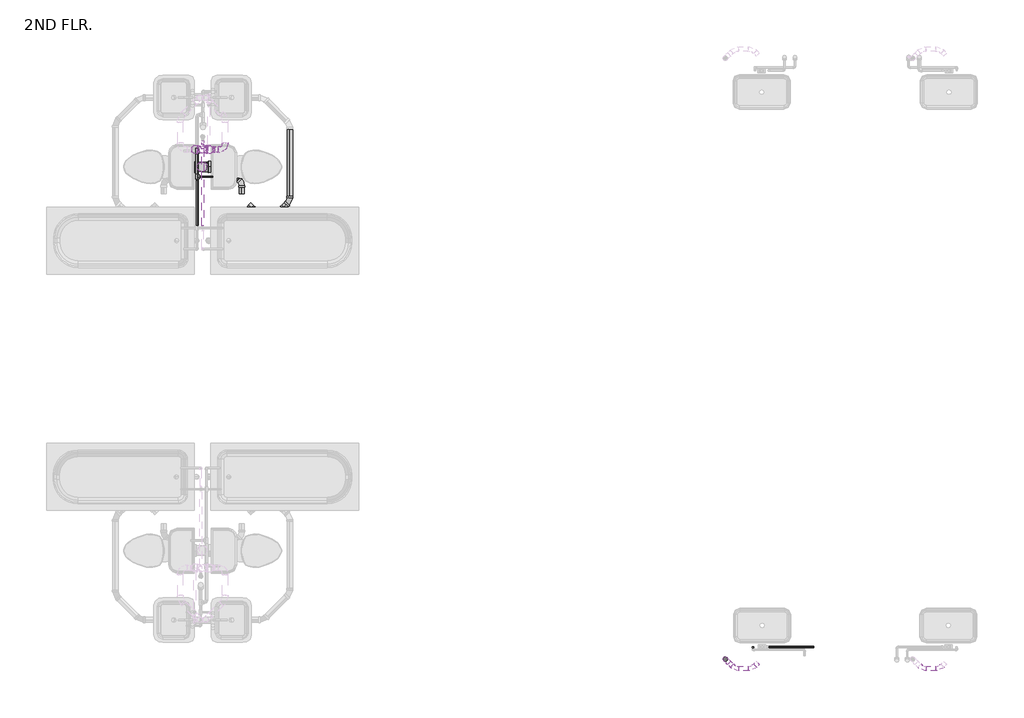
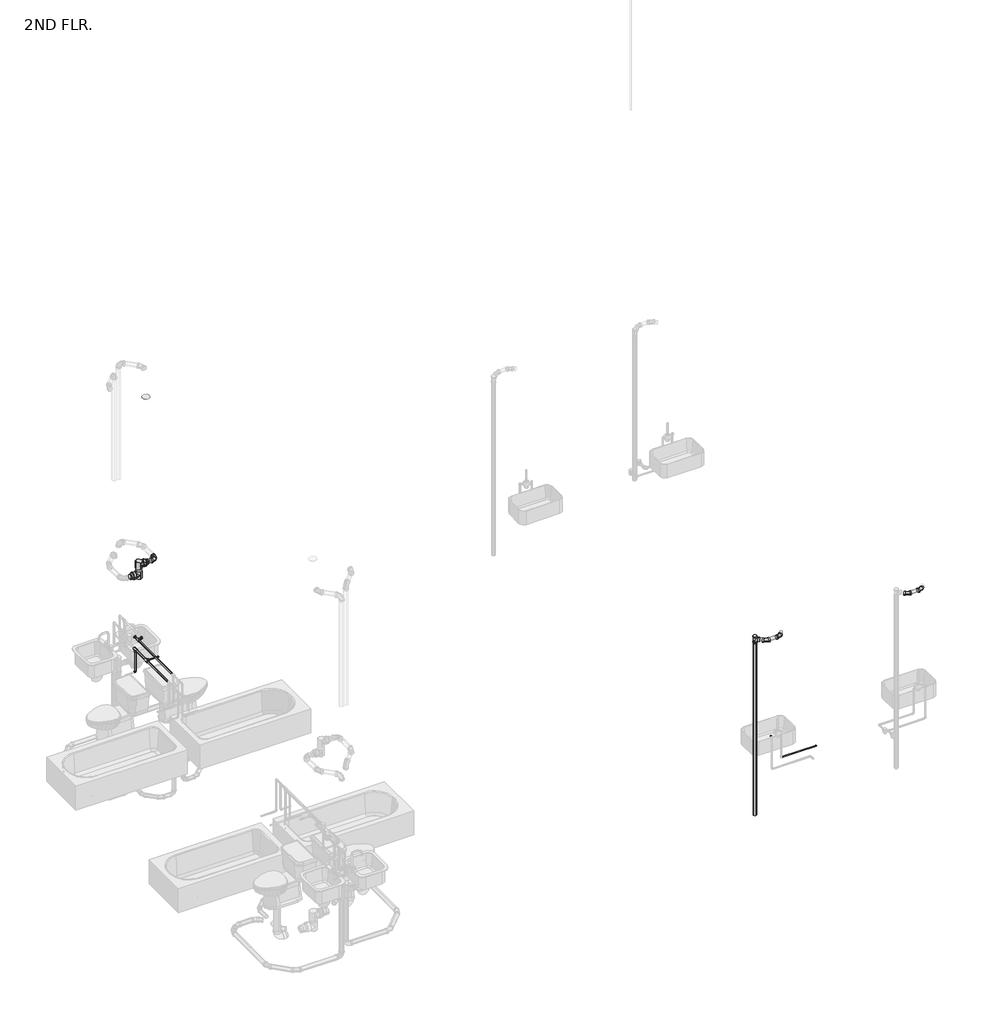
# One storey, part 6 of 15: 34 pipe fittings, 28 pipe segments.
"""IFC4 building model written with IfcOpenShell, lengths in millimetres."""

from ifc_helpers import new_model, si_unit, point, frame, frame_2d, origin, place, context, project, spatial, circle_curve, trimmed, segment, composite_curve, outline, extrude, transform, mapped, element, save
from components import bend_pvc_sch_40_dwv_standard_e59a9f3a, bend_pvc_sch_40_dwv_standard_c28c2be1, bend_pvc_sch_40_dwv_standard_9a61ab34, bend_pvc_sch_40_dwv_standard_f2f5988a, bend_pvc_sch_40_dwv_standard_1eaeee76, bend_pvc_sch_40_dwv_standard_dc84db8a, bend_pvc_sch_40_dwv_standard_64a347df, bend_pvc_sch_40_dwv_standard_72717ed5, bend_pvc_sch_40_dwv_standard_56c8873b, pipe_elbow_copper_k_feaaf02c, pipe_elbow_copper_k_aad62f2d, pipe_tee_copper_k_ee363fbf, pipe_tee_copper_k_feafe2f1, pipe_tee_copper_k_66279296, pipe_tee_standard_eb115f45, pipe_tee_standard_88342a58, pipe_transition_copper_k_b4f16853, pipe_transition_copper_k_b63fd5dd, pipe_transition_copper_k_92c68de2, reducer_pvc_sch_40_dwv_standard_f8e5081b, reducer_pvc_sch_40_dwv_standard_58c00515, tee_generic_standard_21caa2af, tee_sanitary_pvc_sch_40_dwv_standard_31acfb72

model = new_model("IFC4")

# Units and contexts
model_context = context("Model", 3, world=origin())
ifc_project = project(units=[si_unit("LENGTHUNIT", "METRE", prefix="MILLI")], contexts=[model_context])

# Site, building, storey
site = spatial("IfcSite", under=ifc_project)
building = spatial("IfcBuilding", under=site)
storey = spatial("IfcBuildingStorey", under=building, Name="2ND FLR.", Elevation=2844.8)

# Pipe fittings
placement = place(None, origin())
bend_pvc_sch_40_dwv_standard_shape = bend_pvc_sch_40_dwv_standard_e59a9f3a(model_context)
element("IfcPipeFitting", 1, ObjectType="Bend - PVC - Sch 40 - DWV : Standard", at=placement, inside=storey, context=model_context, shape_type="MappedRepresentation", body=[
    mapped(bend_pvc_sch_40_dwv_standard_shape, transform((2563.0324353, 7019.0003975, 2448.8949826), x_axis=(0.7071067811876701, 0.7071067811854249, 0.0), y_axis=(-0.7071067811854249, 0.7071067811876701, 0.0), z_axis=(0.0, 0.0, 1.0))),
])
bend_pvc_sch_40_dwv_standard_2_shape = bend_pvc_sch_40_dwv_standard_c28c2be1(model_context)
element("IfcPipeFitting", 2, ObjectType="Bend - PVC - Sch 40 - DWV : Standard", at=placement, inside=storey, context=model_context, shape_type="MappedRepresentation", body=[
    mapped(bend_pvc_sch_40_dwv_standard_2_shape, transform((8359.7743364, 1981.9339371, 5528.5490021), x_axis=(-0.7070684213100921, -0.7071067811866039, 0.007365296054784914), y_axis=(0.7070684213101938, -0.7071067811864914, -0.007365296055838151), z_axis=(0.010416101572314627, 0.0, 0.9999457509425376))),
])
element("IfcPipeFitting", 3, ObjectType="Bend - PVC - Sch 40 - DWV : Standard", at=placement, inside=storey, context=model_context, shape_type="MappedRepresentation", body=[
    mapped(bend_pvc_sch_40_dwv_standard_2_shape, transform((10488.1493364, 1981.9339371, 5528.5490021), x_axis=(-0.7070684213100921, -0.7071067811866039, 0.007365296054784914), y_axis=(0.7070684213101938, -0.7071067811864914, -0.007365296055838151), z_axis=(0.010416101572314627, 0.0, 0.9999457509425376))),
])
bend_pvc_sch_40_dwv_standard_3_shape = bend_pvc_sch_40_dwv_standard_9a61ab34(model_context)
element("IfcPipeFitting", 4, ObjectType="Bend - PVC - Sch 40 - DWV : Standard", at=placement, inside=storey, context=model_context, shape_type="MappedRepresentation", body=[
    mapped(bend_pvc_sch_40_dwv_standard_3_shape, transform((8161.8285818, 1981.9339371, 5530.610937), x_axis=(-0.9999457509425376, 0.0, 0.010416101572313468), y_axis=(-4.542044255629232e-05, -0.9999904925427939, -0.004360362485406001), z_axis=(0.010416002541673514, -0.004360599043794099, 0.9999362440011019))),
])
element("IfcPipeFitting", 5, ObjectType="Bend - PVC - Sch 40 - DWV : Standard", at=placement, inside=storey, context=model_context, shape_type="MappedRepresentation", body=[
    mapped(bend_pvc_sch_40_dwv_standard_3_shape, transform((10290.2035818, 1981.9339371, 5530.610937), x_axis=(-0.9999457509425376, 0.0, 0.010416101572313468), y_axis=(-4.542044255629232e-05, -0.9999904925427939, -0.004360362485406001), z_axis=(0.010416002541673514, -0.004360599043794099, 0.9999362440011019))),
])
bend_pvc_sch_40_dwv_standard_4_shape = bend_pvc_sch_40_dwv_standard_f2f5988a(model_context)
element("IfcPipeFitting", 6, ObjectType="Bend - PVC - Sch 40 - DWV : Standard", at=placement, inside=storey, context=model_context, shape_type="MappedRepresentation", body=[
    mapped(bend_pvc_sch_40_dwv_standard_4_shape, transform((3108.9116861, 7289.6197731, 2448.8689525), x_axis=(0.707106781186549, 0.707106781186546, 0.0), y_axis=(-0.707106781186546, 0.707106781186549, 0.0), z_axis=(0.0, 0.0, 1.0))),
])
element("IfcPipeFitting", 7, ObjectType="Bend - PVC - Sch 40 - DWV : Standard", at=placement, inside=storey, context=model_context, shape_type="MappedRepresentation", body=[
    mapped(bend_pvc_sch_40_dwv_standard_4_shape, transform((2999.0889044, 7179.7969914, 2448.8689525), x_axis=(1.0, 0.0, 0.0), y_axis=(0.0, 1.0, 0.0), z_axis=(0.0, 0.0, 1.0))),
])
bend_pvc_sch_40_dwv_standard_5_shape = bend_pvc_sch_40_dwv_standard_1eaeee76(model_context)
element("IfcPipeFitting", 8, ObjectType="Bend - PVC - Sch 40 - DWV : Standard", at=placement, inside=storey, context=model_context, shape_type="MappedRepresentation", body=[
    mapped(bend_pvc_sch_40_dwv_standard_5_shape, transform((2372.3084875, 7876.8887644, 5283.2), x_axis=(1.0, 0.0, 0.0), y_axis=(0.0, 0.9999999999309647, -1.1750347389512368e-05), z_axis=(0.0, 1.1750347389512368e-05, 0.9999999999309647))),
])
bend_pvc_sch_40_dwv_standard_6_shape = bend_pvc_sch_40_dwv_standard_dc84db8a(model_context)
element("IfcPipeFitting", 9, ObjectType="Bend - PVC - Sch 40 - DWV : Standard", at=placement, inside=storey, context=model_context, shape_type="MappedRepresentation", body=[
    mapped(bend_pvc_sch_40_dwv_standard_6_shape, transform((2670.7109214, 7679.2137881, 2447.8717279), x_axis=(0.9999739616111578, 0.0, -0.0072163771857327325), y_axis=(0.0072163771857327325, 0.0, 0.9999739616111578), z_axis=(0.0, -1.0, 0.0))),
])
bend_pvc_sch_40_dwv_standard_7_shape = bend_pvc_sch_40_dwv_standard_64a347df(model_context)
element("IfcPipeFitting", 10, ObjectType="Bend - PVC - Sch 40 - DWV : Standard", at=placement, inside=storey, context=model_context, shape_type="MappedRepresentation", body=[
    mapped(bend_pvc_sch_40_dwv_standard_7_shape, transform((2563.0324353, 7501.2987647, 2448.8949826), x_axis=(0.0, 1.0, 0.0), y_axis=(-0.9999186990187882, 0.0, 0.012751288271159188), z_axis=(0.012751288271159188, 0.0, 0.9999186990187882))),
])
bend_pvc_sch_40_dwv_standard_8_shape = bend_pvc_sch_40_dwv_standard_72717ed5(model_context)
element("IfcPipeFitting", 11, ObjectType="Bend - PVC - Sch 40 - DWV : Standard", at=placement, inside=storey, context=model_context, shape_type="MappedRepresentation", body=[
    mapped(bend_pvc_sch_40_dwv_standard_8_shape, transform((2713.5048204, 7179.7969914, 2448.8689525), x_axis=(0.7071067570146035, -0.7071067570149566, -0.0002614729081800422), y_axis=(0.7071068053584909, 0.7071067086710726, 0.0002614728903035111), z_axis=(0.0, -0.0003697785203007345, 0.9999999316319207))),
])
bend_pvc_sch_40_dwv_standard_9_shape = bend_pvc_sch_40_dwv_standard_56c8873b(model_context)
element("IfcPipeFitting", 12, ObjectType="Bend - PVC - Sch 40 - DWV : Standard", at=placement, inside=storey, context=model_context, shape_type="MappedRepresentation", body=[
    mapped(bend_pvc_sch_40_dwv_standard_9_shape, transform((2372.3084875, 7876.8887644, 5283.1990858), x_axis=(0.9999989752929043, 0.0, -0.0014315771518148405), y_axis=(-1.2572894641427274e-08, 0.9999999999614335, -8.782538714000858e-06), z_axis=(0.0014315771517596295, 8.782547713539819e-06, 0.9999989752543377))),
])
pipe_elbow_copper_k_shape = pipe_elbow_copper_k_feaaf02c(model_context)
element("IfcPipeFitting", 13, ObjectType="Pipe Elbow : Copper- K", at=placement, inside=storey, context=model_context, shape_type="MappedRepresentation", body=[
    mapped(pipe_elbow_copper_k_shape, transform((2186.5709875, 7910.5468309, 4064.0), x_axis=(1.0, 0.0, 0.0), y_axis=(0.0, 1.0, 0.0), z_axis=(0.0, 0.0, 1.0))),
])
pipe_elbow_copper_k_2_shape = pipe_elbow_copper_k_aad62f2d(model_context)
element("IfcPipeFitting", 14, ObjectType="Pipe Elbow : Copper- K", at=placement, inside=storey, context=model_context, shape_type="MappedRepresentation", body=[
    mapped(pipe_elbow_copper_k_2_shape, transform((2054.8084875, 7859.3528944, 3606.8), x_axis=(0.0, 0.0, -1.0), y_axis=(-1.0, 0.0, 0.0), z_axis=(0.0, 1.0, 0.0))),
])
pipe_tee_copper_k_shape = pipe_tee_copper_k_ee363fbf(model_context)
element("IfcPipeFitting", 15, ObjectType="Pipe Tee : Copper- K", at=placement, inside=storey, context=model_context, shape_type="MappedRepresentation", body=[
    mapped(pipe_tee_copper_k_shape, transform((2118.3084875, 7910.5468309, 4064.0), x_axis=(0.0, 1.0, 0.0), y_axis=(-1.0, 0.0, 0.0), z_axis=(0.0, 0.0, 1.0))),
])
pipe_tee_copper_k_2_shape = pipe_tee_copper_k_feafe2f1(model_context)
element("IfcPipeFitting", 16, ObjectType="Pipe Tee : Copper- K", at=placement, inside=storey, context=model_context, shape_type="MappedRepresentation", body=[
    mapped(pipe_tee_copper_k_2_shape, transform((2054.8084875, 7859.3528944, 3962.4), x_axis=(0.0, 1.0, 0.0), y_axis=(0.0, 0.0, 1.0), z_axis=(1.0, 0.0, 0.0))),
])
element("IfcPipeFitting", 17, ObjectType="Pipe Tee : Copper- K", at=placement, inside=storey, context=model_context, shape_type="MappedRepresentation", body=[
    mapped(pipe_tee_copper_k_2_shape, transform((2054.8084875, 7567.5498426, 3962.4), x_axis=(0.0, 1.0, 0.0), y_axis=(-1.0, 0.0, 0.0), z_axis=(0.0, 0.0, 1.0))),
])
pipe_tee_copper_k_3_shape = pipe_tee_copper_k_66279296(model_context)
element("IfcPipeFitting", 18, ObjectType="Pipe Tee : Copper- K", at=placement, inside=storey, context=model_context, shape_type="MappedRepresentation", body=[
    mapped(pipe_tee_copper_k_3_shape, transform((2111.7559337, 7876.8887644, 5130.8), x_axis=(0.0, 0.0, 1.0), y_axis=(1.0, 0.0, 0.0), z_axis=(0.0, 1.0, 0.0))),
])
element("IfcPipeFitting", 19, ObjectType="Pipe Tee : Standard", at=placement, inside=storey, context=model_context, shape_type="MappedRepresentation", body=[
    mapped(pipe_tee_copper_k_3_shape, transform((2111.7559337, 7876.8887644, 5283.2), x_axis=(0.0, 0.0, 1.0), y_axis=(-1.0, 0.0, 0.0), z_axis=(0.0, -1.0, 0.0))),
])
element("IfcPipeFitting", 20, ObjectType="Pipe Tee : Standard", at=placement, inside=storey, context=model_context, shape_type="MappedRepresentation", body=[
    mapped(pipe_tee_copper_k_3_shape, transform((2118.30848, 7876.8887644, 5130.7990858), x_axis=(0.0, 0.0, 1.0), y_axis=(1.0, 0.0, 0.0), z_axis=(0.0, 1.0, 0.0))),
])
pipe_tee_standard_shape = pipe_tee_standard_eb115f45(model_context)
element("IfcPipeFitting", 21, ObjectType="Pipe Tee : Standard", at=placement, inside=storey, context=model_context, shape_type="MappedRepresentation", body=[
    mapped(pipe_tee_standard_shape, transform((2118.30848, 7876.8887644, 5283.5627068), x_axis=(0.0, 0.0, 1.0), y_axis=(-1.0, 0.0, 0.0), z_axis=(0.0, -1.0, 0.0))),
])
pipe_tee_standard_2_shape = pipe_tee_standard_88342a58(model_context)
element("IfcPipeFitting", 22, ObjectType="Pipe Tee : Standard", at=placement, inside=storey, context=model_context, shape_type="MappedRepresentation", body=[
    mapped(pipe_tee_standard_2_shape, transform((2111.7564013, 7679.2137881, 2451.8581717), x_axis=(-6.991457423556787e-08, 0.0, 0.9999999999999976), y_axis=(-0.9999999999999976, 0.0, -6.991457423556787e-08), z_axis=(0.0, -1.0, 0.0))),
])
pipe_transition_copper_k_shape = pipe_transition_copper_k_b4f16853(model_context)
element("IfcPipeFitting", 23, ObjectType="Pipe Transition : Copper- K", at=placement, inside=storey, context=model_context, shape_type="MappedRepresentation", body=[
    mapped(pipe_transition_copper_k_shape, transform((2054.8084875, 7537.3873426, 3962.4), x_axis=(0.0, -1.0, 0.0), y_axis=(1.0, 0.0, 0.0), z_axis=(0.0, 0.0, 1.0))),
])
pipe_transition_copper_k_2_shape = pipe_transition_copper_k_b63fd5dd(model_context)
element("IfcPipeFitting", 24, ObjectType="Pipe Transition : Copper- K", at=placement, inside=storey, context=model_context, shape_type="MappedRepresentation", body=[
    mapped(pipe_transition_copper_k_2_shape, transform((2054.8084875, 7859.3528944, 3932.2375), x_axis=(0.0, 0.0, -1.0), y_axis=(0.0, -1.0, 0.0), z_axis=(-1.0, 0.0, 0.0))),
])
element("IfcPipeFitting", 25, ObjectType="Pipe Transition : Copper- K", at=placement, inside=storey, context=model_context, shape_type="MappedRepresentation", body=[
    mapped(pipe_transition_copper_k_2_shape, transform((2084.9709875, 7567.5498426, 3962.4), x_axis=(1.0, 0.0, 0.0), y_axis=(0.0, 1.0, 0.0), z_axis=(0.0, 0.0, 1.0))),
])
pipe_transition_copper_k_3_shape = pipe_transition_copper_k_92c68de2(model_context)
element("IfcPipeFitting", 26, ObjectType="Pipe Transition : Copper- K", at=placement, inside=storey, context=model_context, shape_type="MappedRepresentation", body=[
    mapped(pipe_transition_copper_k_3_shape, transform((2118.3084875, 7984.6481631, 4064.0), x_axis=(0.0, -1.0, 0.0), y_axis=(1.0, 0.0, 0.0), z_axis=(0.0, 0.0, 1.0))),
])
reducer_pvc_sch_40_dwv_standard_shape = reducer_pvc_sch_40_dwv_standard_f8e5081b(model_context)
element("IfcPipeFitting", 27, ObjectType="Reducer - PVC - Sch 40 - DWV : Standard", at=placement, inside=storey, context=model_context, shape_type="MappedRepresentation", body=[
    mapped(reducer_pvc_sch_40_dwv_standard_shape, transform((2167.3184337, 7876.8887644, 5283.2), x_axis=(1.0, 0.0, 0.0), y_axis=(0.0, 1.0, 0.0), z_axis=(0.0, 0.0, 1.0))),
])
element("IfcPipeFitting", 28, ObjectType="Reducer - PVC - Sch 40 - DWV : Standard", at=placement, inside=storey, context=model_context, shape_type="MappedRepresentation", body=[
    mapped(reducer_pvc_sch_40_dwv_standard_shape, transform((2056.1934337, 7876.8887644, 5130.8), x_axis=(-1.0, 0.0, 0.0), y_axis=(0.0, -1.0, 0.0), z_axis=(0.0, 0.0, 1.0))),
])
element("IfcPipeFitting", 29, ObjectType="Reducer - PVC - Sch 40 - DWV : Standard", at=placement, inside=storey, context=model_context, shape_type="MappedRepresentation", body=[
    mapped(reducer_pvc_sch_40_dwv_standard_shape, transform((2062.74598, 7876.8887644, 5130.7990858), x_axis=(-1.0, 0.0, 0.0), y_axis=(0.0, -1.0, 0.0), z_axis=(0.0, 0.0, 1.0))),
])
element("IfcPipeFitting", 30, ObjectType="Reducer - PVC - Sch 40 - DWV : Standard", at=placement, inside=storey, context=model_context, shape_type="MappedRepresentation", body=[
    mapped(reducer_pvc_sch_40_dwv_standard_shape, transform((2173.8709231, 7876.8887644, 5283.4831648), x_axis=(0.9999989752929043, 0.0, -0.001431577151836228), y_axis=(0.0, 1.0000000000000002, 0.0), z_axis=(0.001431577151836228, 0.0, 0.9999989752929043))),
])
reducer_pvc_sch_40_dwv_standard_2_shape = reducer_pvc_sch_40_dwv_standard_58c00515(model_context)
element("IfcPipeFitting", 31, ObjectType="Reducer - PVC - Sch 40 - DWV : Standard", at=placement, inside=storey, context=model_context, shape_type="MappedRepresentation", body=[
    mapped(reducer_pvc_sch_40_dwv_standard_2_shape, transform((2046.6706071, 7679.2137881, 2293.686673), x_axis=(-0.9999739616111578, 0.0, -0.007216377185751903), y_axis=(-0.007216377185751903, 0.0, 0.9999739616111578), z_axis=(0.0, 1.0, 0.0))),
])
element("IfcPipeFitting", 32, ObjectType="Reducer - PVC - Sch 40 - DWV : Standard", at=placement, inside=storey, context=model_context, shape_type="MappedRepresentation", body=[
    mapped(reducer_pvc_sch_40_dwv_standard_2_shape, transform((2180.0171238, 7679.2137881, 2451.3655638), x_axis=(0.9999739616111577, 0.0, -0.007216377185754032), y_axis=(0.007216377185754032, 0.0, 0.9999739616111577), z_axis=(0.0, -1.0, 0.0))),
])
tee_generic_standard_shape = tee_generic_standard_21caa2af(model_context)
element("IfcPipeFitting", 33, ObjectType="Tee - Generic : Standard", at=placement, inside=storey, context=model_context, shape_type="MappedRepresentation", body=[
    mapped(tee_generic_standard_shape, transform((2111.7564123, 7679.2137881, 2294.1563689), x_axis=(-6.991457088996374e-08, 0.0, 0.9999999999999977), y_axis=(0.9999999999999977, 0.0, 6.991457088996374e-08), z_axis=(0.0, 1.0, 0.0))),
])
tee_sanitary_pvc_sch_40_dwv_standard_shape = tee_sanitary_pvc_sch_40_dwv_standard_31acfb72(model_context)
element("IfcPipeFitting", 34, ObjectType="Tee Sanitary - PVC - Sch 40 - DWV : Standard", at=placement, inside=storey, context=model_context, shape_type="MappedRepresentation", body=[
    mapped(tee_sanitary_pvc_sch_40_dwv_standard_shape, transform((8054.0611988, 2088.8641446, 5532.1998234), x_axis=(0.0, 0.0, 1.0), y_axis=(0.7098586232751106, -0.7043441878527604, 0.0), z_axis=(0.7043441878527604, 0.7098586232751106, 0.0))),
])

# Pipe segments
element("IfcPipeSegment", 35, ObjectType="Copper", at=placement, inside=storey, context=model_context, shape_type="SweptSolid", body=[
    extrude(outline(composite_curve([segment(trimmed(circle_curve(frame_2d((7910.5468309, 4064.0)), 11.1125), [point((7899.4343309, 4064.0))], [point((7910.5468309, 4075.1125))], False, "CARTESIAN"), True, "CONTINUOUS"), segment(trimmed(circle_curve(frame_2d((7910.5468309, 4064.0)), 11.1125), [point((7910.5468309, 4075.1125))], [point((7921.6593309, 4064.0))], False, "CARTESIAN"), True, "CONTINUOUS"), segment(trimmed(circle_curve(frame_2d((7910.5468309, 4064.0)), 11.1125), [point((7921.6593309, 4064.0))], [point((7910.5468309, 4052.8875))], False, "CARTESIAN"), True, "CONTINUOUS"), segment(trimmed(circle_curve(frame_2d((7910.5468309, 4064.0)), 11.1125), [point((7910.5468309, 4052.8875))], [point((7899.4343309, 4064.0))], False, "CARTESIAN"), True, "CONTINUOUS")], self_intersect=False)), frame((2145.2959875, 0.0, 0.0), z_axis=(1.0, 0.0, 0.0), x_axis=(0.0, 1.0, 0.0)), (0.0, 0.0, 1.0), 20.6375),
])
element("IfcPipeSegment", 36, ObjectType="Copper", at=placement, inside=storey, context=model_context, shape_type="SweptSolid", body=[
    extrude(outline(composite_curve([segment(trimmed(circle_curve(frame_2d((4064.0, 2118.3084875)), 11.1125), [point((4064.0, 2107.1959875))], [point((4052.8875, 2118.3084875))], False, "CARTESIAN"), True, "CONTINUOUS"), segment(trimmed(circle_curve(frame_2d((4064.0, 2118.3084875)), 11.1125), [point((4052.8875, 2118.3084875))], [point((4064.0, 2129.4209875))], False, "CARTESIAN"), True, "CONTINUOUS"), segment(trimmed(circle_curve(frame_2d((4064.0, 2118.3084875)), 11.1125), [point((4064.0, 2129.4209875))], [point((4075.1125, 2118.3084875))], False, "CARTESIAN"), True, "CONTINUOUS"), segment(trimmed(circle_curve(frame_2d((4064.0, 2118.3084875)), 11.1125), [point((4075.1125, 2118.3084875))], [point((4064.0, 2107.1959875))], False, "CARTESIAN"), True, "CONTINUOUS")], self_intersect=False)), frame((0.0, 7937.5343309, 0.0), z_axis=(0.0, 1.0, 0.0), x_axis=(0.0, 0.0, 1.0)), (0.0, 0.0, 1.0), 36.7950822),
])
element("IfcPipeSegment", 37, ObjectType="Copper", at=placement, inside=storey, context=model_context, shape_type="SweptSolid", body=[
    extrude(outline(composite_curve([segment(trimmed(circle_curve(frame_2d((2054.8084875, 7859.3528944)), 7.9375), [point((2062.7459875, 7859.3528944))], [point((2054.8084875, 7851.4153944))], False, "CARTESIAN"), True, "CONTINUOUS"), segment(trimmed(circle_curve(frame_2d((2054.8084875, 7859.3528944)), 7.9375), [point((2054.8084875, 7851.4153944))], [point((2046.8709875, 7859.3528944))], False, "CARTESIAN"), True, "CONTINUOUS"), segment(trimmed(circle_curve(frame_2d((2054.8084875, 7859.3528944)), 7.9375), [point((2046.8709875, 7859.3528944))], [point((2054.8084875, 7867.2903944))], False, "CARTESIAN"), True, "CONTINUOUS"), segment(trimmed(circle_curve(frame_2d((2054.8084875, 7859.3528944)), 7.9375), [point((2054.8084875, 7867.2903944))], [point((2062.7459875, 7859.3528944))], False, "CARTESIAN"), True, "CONTINUOUS")], self_intersect=False)), frame((0.0, 0.0, 3624.2625), z_axis=(0.0, 0.0, 1.0), x_axis=(1.0, 0.0, 0.0)), (0.0, 0.0, 1.0), 300.83125),
])
element("IfcPipeSegment", 38, ObjectType="Copper", at=placement, inside=storey, context=model_context, shape_type="SweptSolid", body=[
    extrude(outline(composite_curve([segment(trimmed(circle_curve(frame_2d((7567.5498426, 3962.4)), 7.9375), [point((7559.6123426, 3962.4))], [point((7567.5498426, 3970.3375))], False, "CARTESIAN"), True, "CONTINUOUS"), segment(trimmed(circle_curve(frame_2d((7567.5498426, 3962.4)), 7.9375), [point((7567.5498426, 3970.3375))], [point((7575.4873426, 3962.4))], False, "CARTESIAN"), True, "CONTINUOUS"), segment(trimmed(circle_curve(frame_2d((7567.5498426, 3962.4)), 7.9375), [point((7575.4873426, 3962.4))], [point((7567.5498426, 3954.4625))], False, "CARTESIAN"), True, "CONTINUOUS"), segment(trimmed(circle_curve(frame_2d((7567.5498426, 3962.4)), 7.9375), [point((7567.5498426, 3954.4625))], [point((7559.6123426, 3962.4))], False, "CARTESIAN"), True, "CONTINUOUS")], self_intersect=False)), frame((2092.1147375, 0.0, 0.0), z_axis=(1.0, 0.0, 0.0), x_axis=(0.0, 1.0, 0.0)), (0.0, 0.0, 1.0), 140.49375),
])
element("IfcPipeSegment", 39, ObjectType="Copper", at=placement, inside=storey, context=model_context, shape_type="SweptSolid", body=[
    extrude(outline(composite_curve([segment(trimmed(circle_curve(frame_2d((3962.4, 2054.8084875)), 14.2875), [point((3962.4, 2040.5209875))], [point((3948.1125, 2054.8084875))], False, "CARTESIAN"), True, "CONTINUOUS"), segment(trimmed(circle_curve(frame_2d((3962.4, 2054.8084875)), 14.2875), [point((3948.1125, 2054.8084875))], [point((3962.4, 2069.0959875))], False, "CARTESIAN"), True, "CONTINUOUS"), segment(trimmed(circle_curve(frame_2d((3962.4, 2054.8084875)), 14.2875), [point((3962.4, 2069.0959875))], [point((3976.6875, 2054.8084875))], False, "CARTESIAN"), True, "CONTINUOUS"), segment(trimmed(circle_curve(frame_2d((3962.4, 2054.8084875)), 14.2875), [point((3976.6875, 2054.8084875))], [point((3962.4, 2040.5209875))], False, "CARTESIAN"), True, "CONTINUOUS")], self_intersect=False)), frame((0.0, 7597.7123426, 0.0), z_axis=(0.0, 1.0, 0.0), x_axis=(0.0, 0.0, 1.0)), (0.0, 0.0, 1.0), 231.4780518),
])
element("IfcPipeSegment", 40, ObjectType="Copper", at=placement, inside=storey, context=model_context, shape_type="SweptSolid", body=[
    extrude(outline(composite_curve([segment(trimmed(circle_curve(frame_2d((4064.0, 2118.3084875)), 11.1125), [point((4064.0, 2107.1959875))], [point((4052.8875, 2118.3084875))], False, "CARTESIAN"), True, "CONTINUOUS"), segment(trimmed(circle_curve(frame_2d((4064.0, 2118.3084875)), 11.1125), [point((4052.8875, 2118.3084875))], [point((4064.0, 2129.4209875))], False, "CARTESIAN"), True, "CONTINUOUS"), segment(trimmed(circle_curve(frame_2d((4064.0, 2118.3084875)), 11.1125), [point((4064.0, 2129.4209875))], [point((4075.1125, 2118.3084875))], False, "CARTESIAN"), True, "CONTINUOUS"), segment(trimmed(circle_curve(frame_2d((4064.0, 2118.3084875)), 11.1125), [point((4075.1125, 2118.3084875))], [point((4064.0, 2107.1959875))], False, "CARTESIAN"), True, "CONTINUOUS")], self_intersect=False)), frame((0.0, 7013.009719, 0.0), z_axis=(0.0, 1.0, 0.0), x_axis=(0.0, 0.0, 1.0)), (0.0, 0.0, 1.0), 870.5496119),
])
element("IfcPipeSegment", 41, ObjectType="Copper", at=placement, inside=storey, context=model_context, shape_type="SweptSolid", body=[
    extrude(outline(composite_curve([segment(trimmed(circle_curve(frame_2d((3962.4, 2054.8084875)), 11.1125), [point((3962.4, 2043.6959875))], [point((3951.2875, 2054.8084875))], False, "CARTESIAN"), True, "CONTINUOUS"), segment(trimmed(circle_curve(frame_2d((3962.4, 2054.8084875)), 11.1125), [point((3951.2875, 2054.8084875))], [point((3962.4, 2065.9209875))], False, "CARTESIAN"), True, "CONTINUOUS"), segment(trimmed(circle_curve(frame_2d((3962.4, 2054.8084875)), 11.1125), [point((3962.4, 2065.9209875))], [point((3973.5125, 2054.8084875))], False, "CARTESIAN"), True, "CONTINUOUS"), segment(trimmed(circle_curve(frame_2d((3962.4, 2054.8084875)), 11.1125), [point((3973.5125, 2054.8084875))], [point((3962.4, 2043.6959875))], False, "CARTESIAN"), True, "CONTINUOUS")], self_intersect=False)), frame((0.0, 7013.009719, 0.0), z_axis=(0.0, 1.0, 0.0), x_axis=(0.0, 0.0, 1.0)), (0.0, 0.0, 1.0), 517.2338736),
])
element("IfcPipeSegment", 42, ObjectType="Copper", at=placement, inside=storey, context=model_context, shape_type="SweptSolid", body=[
    extrude(outline(composite_curve([segment(trimmed(circle_curve(frame_2d((3789.6601562, 8370.2391516)), 7.9375), [point((3789.6601562, 8378.1766516))], [point((3797.5976562, 8370.2391516))], False, "CARTESIAN"), True, "CONTINUOUS"), segment(trimmed(circle_curve(frame_2d((3789.6601562, 8370.2391516)), 7.9375), [point((3797.5976562, 8370.2391516))], [point((3789.6601562, 8362.3016516))], False, "CARTESIAN"), True, "CONTINUOUS"), segment(trimmed(circle_curve(frame_2d((3789.6601562, 8370.2391516)), 7.9375), [point((3789.6601562, 8362.3016516))], [point((3781.7226562, 8370.2391516))], False, "CARTESIAN"), True, "CONTINUOUS"), segment(trimmed(circle_curve(frame_2d((3789.6601562, 8370.2391516)), 7.9375), [point((3781.7226562, 8370.2391516))], [point((3789.6601562, 8378.1766516))], False, "CARTESIAN"), True, "CONTINUOUS")], self_intersect=False)), frame((0.0, 2213.188365, 0.0), z_axis=(0.0, 1.0, 0.0), x_axis=(0.0, 0.0, 1.0)), (0.0, 0.0, 1.0), 17.3178158),
])
element("IfcPipeSegment", 43, ObjectType="Copper", at=placement, inside=storey, context=model_context, shape_type="SweptSolid", body=[
    extrude(outline(composite_curve([segment(trimmed(circle_curve(frame_2d((0.0, 7.9375)), 7.9375), [point((-7.9375, 7.9375))], [point((0.0, 15.875))], False, "CARTESIAN"), True, "CONTINUOUS"), segment(trimmed(circle_curve(frame_2d((0.0, 7.9375)), 7.9375), [point((0.0, 15.875))], [point((7.9375, 7.9375))], False, "CARTESIAN"), True, "CONTINUOUS"), segment(trimmed(circle_curve(frame_2d((0.0, 7.9375)), 7.9375), [point((7.9375, 7.9375))], [point((0.0, 0.0))], False, "CARTESIAN"), True, "CONTINUOUS"), segment(trimmed(circle_curve(frame_2d((0.0, 7.9375)), 7.9375), [point((0.0, 0.0))], [point((-7.9375, 7.9375))], False, "CARTESIAN"), True, "CONTINUOUS")], self_intersect=False)), frame((9056.1287803, 2227.8137881, 3385.5383589), z_axis=(-0.9999999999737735, 0.0, 7.242448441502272e-06), x_axis=(0.0, -1.0, 0.0)), (0.0, 0.0, 1.0), 511.1751265),
])
element("IfcPipeSegment", 44, ObjectType="PVC - SAN/STORM", at=placement, inside=storey, context=model_context, shape_type="SweptSolid", body=[
    extrude(outline(composite_curve([segment(trimmed(circle_curve(frame_2d((0.0, 24.1300001)), 24.13), [point((-24.1293456, 24.3077102))], [point((0.1777101, 48.2593457))], False, "CARTESIAN"), True, "CONTINUOUS"), segment(trimmed(circle_curve(frame_2d((0.0, 24.1300001)), 24.13), [point((0.1777101, 48.2593457))], [point((24.1293456, 23.95229))], False, "CARTESIAN"), True, "CONTINUOUS"), segment(trimmed(circle_curve(frame_2d((0.0, 24.1300001)), 24.13), [point((24.1293456, 23.95229))], [point((-0.1777101, 0.0006545))], False, "CARTESIAN"), True, "CONTINUOUS"), segment(trimmed(circle_curve(frame_2d((0.0, 24.1300001)), 24.13), [point((-0.1777101, 0.0006545))], [point((-24.1293456, 24.3077102))], False, "CARTESIAN"), True, "CONTINUOUS")], self_intersect=False)), frame((8423.7663086, 2045.6780541, 5503.7537279), z_axis=(-0.7070684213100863, -0.707106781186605, 0.007365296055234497), x_axis=(0.7071451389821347, -0.7070300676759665, 0.007364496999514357)), (0.0, 0.0, 1.0), 44.4784246),
])
element("IfcPipeSegment", 45, ObjectType="PVC - SAN/STORM", at=placement, inside=storey, context=model_context, shape_type="SweptSolid", body=[
    extrude(outline(composite_curve([segment(trimmed(circle_curve(frame_2d((0.0, 24.13)), 24.13), [point((0.0, 48.26))], [point((24.13, 24.13))], False, "CARTESIAN"), True, "CONTINUOUS"), segment(trimmed(circle_curve(frame_2d((0.0, 24.13)), 24.13), [point((24.13, 24.13))], [point((0.0, 0.0))], False, "CARTESIAN"), True, "CONTINUOUS"), segment(trimmed(circle_curve(frame_2d((0.0, 24.13)), 24.13), [point((0.0, 0.0))], [point((-24.13, 24.13))], False, "CARTESIAN"), True, "CONTINUOUS"), segment(trimmed(circle_curve(frame_2d((0.0, 24.13)), 24.13), [point((-24.13, 24.13))], [point((0.0, 48.26))], False, "CARTESIAN"), True, "CONTINUOUS")], self_intersect=False)), frame((8313.7520332, 1957.8039371, 5529.0284011), z_axis=(-0.9999457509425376, 0.0, 0.010416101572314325), x_axis=(0.010416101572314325, 0.0, 0.9999457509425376)), (0.0, 0.0, 1.0), 105.9068936),
])
element("IfcPipeSegment", 46, ObjectType="PVC - SAN/STORM", at=placement, inside=storey, context=model_context, shape_type="SweptSolid", body=[
    extrude(outline(composite_curve([segment(trimmed(circle_curve(frame_2d((0.0, 24.13)), 24.13), [point((24.128658, 24.3844918))], [point((0.2544918, 0.001342))], False, "CARTESIAN"), True, "CONTINUOUS"), segment(trimmed(circle_curve(frame_2d((0.0, 24.13)), 24.13), [point((0.2544918, 0.001342))], [point((-24.1286579, 23.8755083))], False, "CARTESIAN"), True, "CONTINUOUS"), segment(trimmed(circle_curve(frame_2d((0.0, 24.13)), 24.13), [point((-24.1286579, 23.8755083))], [point((-0.2544917, 48.258658))], False, "CARTESIAN"), True, "CONTINUOUS"), segment(trimmed(circle_curve(frame_2d((0.0, 24.13)), 24.13), [point((-0.2544917, 48.258658))], [point((24.128658, 24.3844918))], False, "CARTESIAN"), True, "CONTINUOUS")], self_intersect=False)), frame((8129.1592698, 2013.9909518, 5555.2199391), z_axis=(-0.7098197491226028, 0.7043056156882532, 0.010465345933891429), x_axis=(0.7043833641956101, 0.7097414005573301, 0.010546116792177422)), (0.0, 0.0, 1.0), 43.8989906),
])
element("IfcPipeSegment", 47, ObjectType="PVC - SAN/STORM", at=placement, inside=storey, context=model_context, shape_type="SweptSolid", body=[
    extrude(outline(composite_curve([segment(trimmed(circle_curve(frame_2d((8054.0611988, 2088.8641446)), 24.13), [point((8078.1911988, 2088.8641446))], [point((8054.0611988, 2064.7341446))], False, "CARTESIAN"), True, "CONTINUOUS"), segment(trimmed(circle_curve(frame_2d((8054.0611988, 2088.8641446)), 24.13), [point((8054.0611988, 2064.7341446))], [point((8029.9311988, 2088.8641446))], False, "CARTESIAN"), True, "CONTINUOUS"), segment(trimmed(circle_curve(frame_2d((8054.0611988, 2088.8641446)), 24.13), [point((8029.9311988, 2088.8641446))], [point((8054.0611988, 2112.9941446))], False, "CARTESIAN"), True, "CONTINUOUS"), segment(trimmed(circle_curve(frame_2d((8054.0611988, 2088.8641446)), 24.13), [point((8054.0611988, 2112.9941446))], [point((8078.1911988, 2088.8641446))], False, "CARTESIAN"), True, "CONTINUOUS")], self_intersect=False)), frame((0.0, 0.0, 2732.6657899), z_axis=(0.0, 0.0, 1.0), x_axis=(1.0, 0.0, 0.0)), (0.0, 0.0, 1.0), 2737.6342335),
])
element("IfcPipeSegment", 48, ObjectType="PVC - SAN/STORM", at=placement, inside=storey, context=model_context, shape_type="SweptSolid", body=[
    extrude(outline(composite_curve([segment(trimmed(circle_curve(frame_2d((0.0, 24.13)), 24.13), [point((0.0, 48.26))], [point((24.13, 24.13))], False, "CARTESIAN"), True, "CONTINUOUS"), segment(trimmed(circle_curve(frame_2d((0.0, 24.13)), 24.13), [point((24.13, 24.13))], [point((0.0, 0.0))], False, "CARTESIAN"), True, "CONTINUOUS"), segment(trimmed(circle_curve(frame_2d((0.0, 24.13)), 24.13), [point((0.0, 0.0))], [point((-24.13, 24.13))], False, "CARTESIAN"), True, "CONTINUOUS"), segment(trimmed(circle_curve(frame_2d((0.0, 24.13)), 24.13), [point((-24.13, 24.13))], [point((0.0, 48.26))], False, "CARTESIAN"), True, "CONTINUOUS")], self_intersect=False)), frame((10442.1270332, 1957.8039371, 5529.0284011), z_axis=(-0.9999457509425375, 0.0, 0.010416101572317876), x_axis=(0.010416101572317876, 0.0, 0.9999457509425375)), (0.0, 0.0, 1.0), 105.9068936),
])
element("IfcPipeSegment", 49, ObjectType="PVC - SAN/STORM", at=placement, inside=storey, context=model_context, shape_type="SweptSolid", body=[
    extrude(outline(composite_curve([segment(trimmed(circle_curve(frame_2d((0.0, -44.45)), 44.45), [point((0.0, -88.9))], [point((-44.45, -44.45))], False, "CARTESIAN"), True, "CONTINUOUS"), segment(trimmed(circle_curve(frame_2d((0.0, -44.45)), 44.45), [point((-44.45, -44.45))], [point((0.0, 0.0))], False, "CARTESIAN"), True, "CONTINUOUS"), segment(trimmed(circle_curve(frame_2d((0.0, -44.45)), 44.45), [point((0.0, 0.0))], [point((44.45, -44.45))], False, "CARTESIAN"), True, "CONTINUOUS"), segment(trimmed(circle_curve(frame_2d((0.0, -44.45)), 44.45), [point((44.45, -44.45))], [point((0.0, -88.9))], False, "CARTESIAN"), True, "CONTINUOUS")], self_intersect=False)), frame((2324.7936415, 7723.6637881, 2450.3207746), z_axis=(-0.9999739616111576, 0.0, 0.007216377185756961), x_axis=(0.007216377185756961, 0.0, 0.9999739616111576)), (0.0, 0.0, 1.0), 38.4050875),
])
element("IfcPipeSegment", 50, ObjectType="PVC - SAN/STORM", at=placement, inside=storey, context=model_context, shape_type="SweptSolid", body=[
    extrude(outline(composite_curve([segment(trimmed(circle_curve(frame_2d((2670.7109214, 7679.2137881)), 44.45), [point((2626.2609214, 7679.2137881))], [point((2670.7109214, 7723.6637881))], False, "CARTESIAN"), True, "CONTINUOUS"), segment(trimmed(circle_curve(frame_2d((2670.7109214, 7679.2137881)), 44.45), [point((2670.7109214, 7723.6637881))], [point((2715.1609214, 7679.2137881))], False, "CARTESIAN"), True, "CONTINUOUS"), segment(trimmed(circle_curve(frame_2d((2670.7109214, 7679.2137881)), 44.45), [point((2715.1609214, 7679.2137881))], [point((2670.7109214, 7634.7637881))], False, "CARTESIAN"), True, "CONTINUOUS"), segment(trimmed(circle_curve(frame_2d((2670.7109214, 7679.2137881)), 44.45), [point((2670.7109214, 7634.7637881))], [point((2626.2609214, 7679.2137881))], False, "CARTESIAN"), True, "CONTINUOUS")], self_intersect=False)), frame((0.0, 0.0, 2563.7719279), z_axis=(0.0, 0.0, 1.0), x_axis=(1.0, 0.0, 0.0)), (0.0, 0.0, 1.0), 281.0280721),
])
element("IfcPipeSegment", 51, ObjectType="PVC - SAN/STORM", at=placement, inside=storey, context=model_context, shape_type="SweptSolid", body=[
    extrude(outline(composite_curve([segment(trimmed(circle_curve(frame_2d((0.0, -30.1625)), 30.1625), [point((-30.1612738, -30.4344609))], [point((-0.2719608, -0.0012261))], False, "CARTESIAN"), True, "CONTINUOUS"), segment(trimmed(circle_curve(frame_2d((0.0, -30.1625)), 30.1625), [point((-0.2719608, -0.0012261))], [point((30.1612739, -29.8905392))], False, "CARTESIAN"), True, "CONTINUOUS"), segment(trimmed(circle_curve(frame_2d((0.0, -30.1625)), 30.1625), [point((30.1612739, -29.8905392))], [point((0.2719609, -60.3237739))], False, "CARTESIAN"), True, "CONTINUOUS"), segment(trimmed(circle_curve(frame_2d((0.0, -30.1625)), 30.1625), [point((0.2719609, -60.3237739))], [point((-30.1612738, -30.4344609))], False, "CARTESIAN"), True, "CONTINUOUS")], self_intersect=False)), frame((2525.9809327, 7538.7345368, 2419.1601379), z_axis=(-0.7070780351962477, 0.7070780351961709, 0.009016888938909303), x_axis=(0.7071355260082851, 0.7070205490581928, 0.009016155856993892)), (0.0, 0.0, 1.0), 62.6891326),
])
element("IfcPipeSegment", 52, ObjectType="PVC - SAN/STORM", at=placement, inside=storey, context=model_context, shape_type="SweptSolid", body=[
    extrude(outline(composite_curve([segment(trimmed(circle_curve(frame_2d((0.0, 44.45)), 44.45), [point((0.0, 88.9))], [point((44.45, 44.45))], False, "CARTESIAN"), True, "CONTINUOUS"), segment(trimmed(circle_curve(frame_2d((0.0, 44.45)), 44.45), [point((44.45, 44.45))], [point((0.0, 0.0))], False, "CARTESIAN"), True, "CONTINUOUS"), segment(trimmed(circle_curve(frame_2d((0.0, 44.45)), 44.45), [point((0.0, 0.0))], [point((-44.45, 44.45))], False, "CARTESIAN"), True, "CONTINUOUS"), segment(trimmed(circle_curve(frame_2d((0.0, 44.45)), 44.45), [point((-44.45, 44.45))], [point((0.0, 88.9))], False, "CARTESIAN"), True, "CONTINUOUS")], self_intersect=False)), frame((2554.813398, 7634.7637881, 2448.660822), z_axis=(-0.9999739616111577, 0.0, 0.007216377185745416), x_axis=(0.007216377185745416, 0.0, 0.9999739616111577)), (0.0, 0.0, 1.0), 24.270256),
])
element("IfcPipeSegment", 53, ObjectType="PVC - SAN/STORM", at=placement, inside=storey, context=model_context, shape_type="SweptSolid", body=[
    extrude(outline(composite_curve([segment(trimmed(circle_curve(frame_2d((2448.8949826, 2563.0324353)), 24.13), [point((2448.8949826, 2538.9024353))], [point((2424.7649826, 2563.0324353))], False, "CARTESIAN"), True, "CONTINUOUS"), segment(trimmed(circle_curve(frame_2d((2448.8949826, 2563.0324353)), 24.13), [point((2424.7649826, 2563.0324353))], [point((2448.8949826, 2587.1624353))], False, "CARTESIAN"), True, "CONTINUOUS"), segment(trimmed(circle_curve(frame_2d((2448.8949826, 2563.0324353)), 24.13), [point((2448.8949826, 2587.1624353))], [point((2473.0249826, 2563.0324353))], False, "CARTESIAN"), True, "CONTINUOUS"), segment(trimmed(circle_curve(frame_2d((2448.8949826, 2563.0324353)), 24.13), [point((2473.0249826, 2563.0324353))], [point((2448.8949826, 2538.9024353))], False, "CARTESIAN"), True, "CONTINUOUS")], self_intersect=False)), frame((0.0, 7065.0251975, 0.0), z_axis=(0.0, 1.0, 0.0), x_axis=(0.0, 0.0, 1.0)), (0.0, 0.0, 1.0), 148.2184415),
])
element("IfcPipeSegment", 54, ObjectType="PVC - SAN/STORM", at=placement, inside=storey, context=model_context, shape_type="SweptSolid", body=[
    extrude(outline(composite_curve([segment(trimmed(circle_curve(frame_2d((2448.8689525, 3108.9116861)), 30.1625), [point((2448.8689525, 3078.7491861))], [point((2418.7064525, 3108.9116861))], False, "CARTESIAN"), True, "CONTINUOUS"), segment(trimmed(circle_curve(frame_2d((2448.8689525, 3108.9116861)), 30.1625), [point((2418.7064525, 3108.9116861))], [point((2448.8689525, 3139.0741861))], False, "CARTESIAN"), True, "CONTINUOUS"), segment(trimmed(circle_curve(frame_2d((2448.8689525, 3108.9116861)), 30.1625), [point((2448.8689525, 3139.0741861))], [point((2479.0314525, 3108.9116861))], False, "CARTESIAN"), True, "CONTINUOUS"), segment(trimmed(circle_curve(frame_2d((2448.8689525, 3108.9116861)), 30.1625), [point((2479.0314525, 3108.9116861))], [point((2448.8689525, 3078.7491861))], False, "CARTESIAN"), True, "CONTINUOUS")], self_intersect=False)), frame((0.0, 7346.7697731, 0.0), z_axis=(0.0, 1.0, 0.0), x_axis=(0.0, 0.0, 1.0)), (0.0, 0.0, 1.0), 762.429973),
])
element("IfcPipeSegment", 55, ObjectType="PVC - SAN/STORM", at=placement, inside=storey, context=model_context, shape_type="SweptSolid", body=[
    extrude(outline(composite_curve([segment(trimmed(circle_curve(frame_2d((0.0, -30.1625)), 30.1625), [point((-30.1625, -30.1625))], [point((0.0, 0.0))], False, "CARTESIAN"), True, "CONTINUOUS"), segment(trimmed(circle_curve(frame_2d((0.0, -30.1625)), 30.1625), [point((0.0, 0.0))], [point((30.1624999, -30.1625))], False, "CARTESIAN"), True, "CONTINUOUS"), segment(trimmed(circle_curve(frame_2d((0.0, -30.1625)), 30.1625), [point((30.1624999, -30.1625))], [point((0.0, -60.325))], False, "CARTESIAN"), True, "CONTINUOUS"), segment(trimmed(circle_curve(frame_2d((0.0, -30.1625)), 30.1625), [point((0.0, -60.325))], [point((-30.1625, -30.1625))], False, "CARTESIAN"), True, "CONTINUOUS")], self_intersect=False)), frame((3039.500057, 7220.208144, 2418.7064525), z_axis=(0.7071067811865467, 0.7071067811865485, 0.0), x_axis=(0.7071067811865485, -0.7071067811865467, 0.0)), (0.0, 0.0, 1.0), 41.0128673),
])
element("IfcPipeSegment", 56, ObjectType="PVC - SAN/STORM", at=placement, inside=storey, context=model_context, shape_type="SweptSolid", body=[
    extrude(outline(composite_curve([segment(trimmed(circle_curve(frame_2d((7179.7969914, 2448.8689525)), 30.1625), [point((7209.9594914, 2448.8689525))], [point((7179.7969914, 2418.7064525))], False, "CARTESIAN"), True, "CONTINUOUS"), segment(trimmed(circle_curve(frame_2d((7179.7969914, 2448.8689525)), 30.1625), [point((7179.7969914, 2418.7064525))], [point((7149.6344914, 2448.8689525))], False, "CARTESIAN"), True, "CONTINUOUS"), segment(trimmed(circle_curve(frame_2d((7179.7969914, 2448.8689525)), 30.1625), [point((7149.6344914, 2448.8689525))], [point((7179.7969914, 2479.0314525))], False, "CARTESIAN"), True, "CONTINUOUS"), segment(trimmed(circle_curve(frame_2d((7179.7969914, 2448.8689525)), 30.1625), [point((7179.7969914, 2479.0314525))], [point((7209.9594914, 2448.8689525))], False, "CARTESIAN"), True, "CONTINUOUS")], self_intersect=False)), frame((2765.9050204, 0.0, 0.0), z_axis=(1.0, 0.0, 0.0), x_axis=(0.0, 1.0, 0.0)), (0.0, 0.0, 1.0), 176.033884),
])
element("IfcPipeSegment", 57, ObjectType="PVC - SAN/STORM", at=placement, inside=storey, context=model_context, shape_type="SweptSolid", body=[
    extrude(outline(composite_curve([segment(trimmed(circle_curve(frame_2d((0.0, -30.1625001)), 30.1625), [point((-30.162499, -30.1703867))], [point((-0.0078867, -1.1e-06))], False, "CARTESIAN"), True, "CONTINUOUS"), segment(trimmed(circle_curve(frame_2d((0.0, -30.1625001)), 30.1625), [point((-0.0078867, -1.1e-06))], [point((30.1624989, -30.1546134))], False, "CARTESIAN"), True, "CONTINUOUS"), segment(trimmed(circle_curve(frame_2d((0.0, -30.1625001)), 30.1625), [point((30.1624989, -30.1546134))], [point((0.0078866, -60.324999))], False, "CARTESIAN"), True, "CONTINUOUS"), segment(trimmed(circle_curve(frame_2d((0.0, -30.1625001)), 30.1625), [point((0.0078866, -60.324999))], [point((-30.162499, -30.1703867))], False, "CARTESIAN"), True, "CONTINUOUS")], self_intersect=False)), frame((2676.4522849, 7216.8606804, 2418.7201558), z_axis=(-0.7071067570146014, 0.7071067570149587, 0.0002614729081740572), x_axis=(0.7071068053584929, 0.7071067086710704, 0.0002614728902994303)), (0.0, 0.0, 1.0), 47.1516099),
])
element("IfcPipeSegment", 58, ObjectType="PVC - SAN/STORM", at=placement, inside=storey, context=model_context, shape_type="SweptSolid", body=[
    extrude(outline(composite_curve([segment(trimmed(circle_curve(frame_2d((2448.8949826, 2563.0324353)), 30.1625), [point((2448.8949826, 2532.8699353))], [point((2418.7324826, 2563.0324353))], False, "CARTESIAN"), True, "CONTINUOUS"), segment(trimmed(circle_curve(frame_2d((2448.8949826, 2563.0324353)), 30.1625), [point((2418.7324826, 2563.0324353))], [point((2448.8949826, 2593.1949353))], False, "CARTESIAN"), True, "CONTINUOUS"), segment(trimmed(circle_curve(frame_2d((2448.8949826, 2563.0324353)), 30.1625), [point((2448.8949826, 2593.1949353))], [point((2479.0574826, 2563.0324353))], False, "CARTESIAN"), True, "CONTINUOUS"), segment(trimmed(circle_curve(frame_2d((2448.8949826, 2563.0324353)), 30.1625), [point((2479.0574826, 2563.0324353))], [point((2448.8949826, 2532.8699353))], False, "CARTESIAN"), True, "CONTINUOUS")], self_intersect=False)), frame((0.0, 7374.4375952, 0.0), z_axis=(0.0, 1.0, 0.0), x_axis=(0.0, 0.0, 1.0)), (0.0, 0.0, 1.0), 74.4609695),
])
element("IfcPipeSegment", 59, ObjectType="PVC - SAN/STORM", at=placement, inside=storey, context=model_context, shape_type="SweptSolid", body=[
    extrude(outline(composite_curve([segment(trimmed(circle_curve(frame_2d((7876.8887644, 5283.2)), 30.1625), [point((7846.7262644, 5283.2))], [point((7876.8887644, 5313.3625))], False, "CARTESIAN"), True, "CONTINUOUS"), segment(trimmed(circle_curve(frame_2d((7876.8887644, 5283.2)), 30.1625), [point((7876.8887644, 5313.3625))], [point((7907.0512644, 5283.2))], False, "CARTESIAN"), True, "CONTINUOUS"), segment(trimmed(circle_curve(frame_2d((7876.8887644, 5283.2)), 30.1625), [point((7907.0512644, 5283.2))], [point((7876.8887644, 5253.0375))], False, "CARTESIAN"), True, "CONTINUOUS"), segment(trimmed(circle_curve(frame_2d((7876.8887644, 5283.2)), 30.1625), [point((7876.8887644, 5253.0375))], [point((7846.7262644, 5283.2))], False, "CARTESIAN"), True, "CONTINUOUS")], self_intersect=False)), frame((2246.6934337, 0.0, 0.0), z_axis=(1.0, 0.0, 0.0), x_axis=(0.0, 1.0, 0.0)), (0.0, 0.0, 1.0), 47.8148538),
])
element("IfcPipeSegment", 60, ObjectType="PVC - SAN/STORM", at=placement, inside=storey, context=model_context, shape_type="SweptSolid", body=[
    extrude(outline(composite_curve([segment(trimmed(circle_curve(frame_2d((0.0, 30.1625)), 30.1625), [point((-30.1625, 30.1625))], [point((0.0, 60.325))], False, "CARTESIAN"), True, "CONTINUOUS"), segment(trimmed(circle_curve(frame_2d((0.0, 30.1625)), 30.1625), [point((0.0, 60.325))], [point((30.1625, 30.1625))], False, "CARTESIAN"), True, "CONTINUOUS"), segment(trimmed(circle_curve(frame_2d((0.0, 30.1625)), 30.1625), [point((30.1625, 30.1625))], [point((0.0, 0.0))], False, "CARTESIAN"), True, "CONTINUOUS"), segment(trimmed(circle_curve(frame_2d((0.0, 30.1625)), 30.1625), [point((0.0, 0.0))], [point((-30.1625, 30.1625))], False, "CARTESIAN"), True, "CONTINUOUS")], self_intersect=False)), frame((2294.4651872, 7876.8887644, 5253.1479937), z_axis=(-0.9999989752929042, 0.0, 0.0014315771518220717), x_axis=(0.0, -1.0, 0.0)), (0.0, 0.0, 1.0), 41.2625677),
])
element("IfcPipeSegment", 61, ObjectType="PVC - SAN/STORM", at=placement, inside=storey, context=model_context, shape_type="SweptSolid", body=[
    extrude(outline(composite_curve([segment(trimmed(circle_curve(frame_2d((2118.30848, 7876.8887644)), 44.45), [point((2073.85848, 7876.8887644))], [point((2118.30848, 7921.3387644))], False, "CARTESIAN"), True, "CONTINUOUS"), segment(trimmed(circle_curve(frame_2d((2118.30848, 7876.8887644)), 44.45), [point((2118.30848, 7921.3387644))], [point((2162.75848, 7876.8887644))], False, "CARTESIAN"), True, "CONTINUOUS"), segment(trimmed(circle_curve(frame_2d((2118.30848, 7876.8887644)), 44.45), [point((2162.75848, 7876.8887644))], [point((2118.30848, 7832.4387644))], False, "CARTESIAN"), True, "CONTINUOUS"), segment(trimmed(circle_curve(frame_2d((2118.30848, 7876.8887644)), 44.45), [point((2118.30848, 7832.4387644))], [point((2073.85848, 7876.8887644))], False, "CARTESIAN"), True, "CONTINUOUS")], self_intersect=False)), frame((0.0, 0.0, 5186.3615858), z_axis=(0.0, 0.0, 1.0), x_axis=(1.0, 0.0, 0.0)), (0.0, 0.0, 1.0), 41.638621),
])
element("IfcPipeSegment", 62, ObjectType="PVC - SAN/STORM", at=placement, inside=storey, context=model_context, shape_type="SweptSolid", body=[
    extrude(outline(composite_curve([segment(trimmed(circle_curve(frame_2d((0.0, 57.15)), 57.15), [point((-57.15, 57.15))], [point((0.0, 114.3))], False, "CARTESIAN"), True, "CONTINUOUS"), segment(trimmed(circle_curve(frame_2d((0.0, 57.15)), 57.15), [point((0.0, 114.3))], [point((57.15, 57.15))], False, "CARTESIAN"), True, "CONTINUOUS"), segment(trimmed(circle_curve(frame_2d((0.0, 57.15)), 57.15), [point((57.15, 57.15))], [point((0.0, 0.0))], False, "CARTESIAN"), True, "CONTINUOUS"), segment(trimmed(circle_curve(frame_2d((0.0, 57.15)), 57.15), [point((0.0, 0.0))], [point((-57.15, 57.15))], False, "CARTESIAN"), True, "CONTINUOUS")], self_intersect=False)), frame((2111.7562199, 7622.0637881, 8067.6418684), z_axis=(-2.289267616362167e-06, 0.0, 0.9999999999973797), x_axis=(0.9999999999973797, 0.0, 2.289267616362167e-06)), (0.0, 0.0, 1.0), 5.6010926),
])

save(model, "model.ifc")
